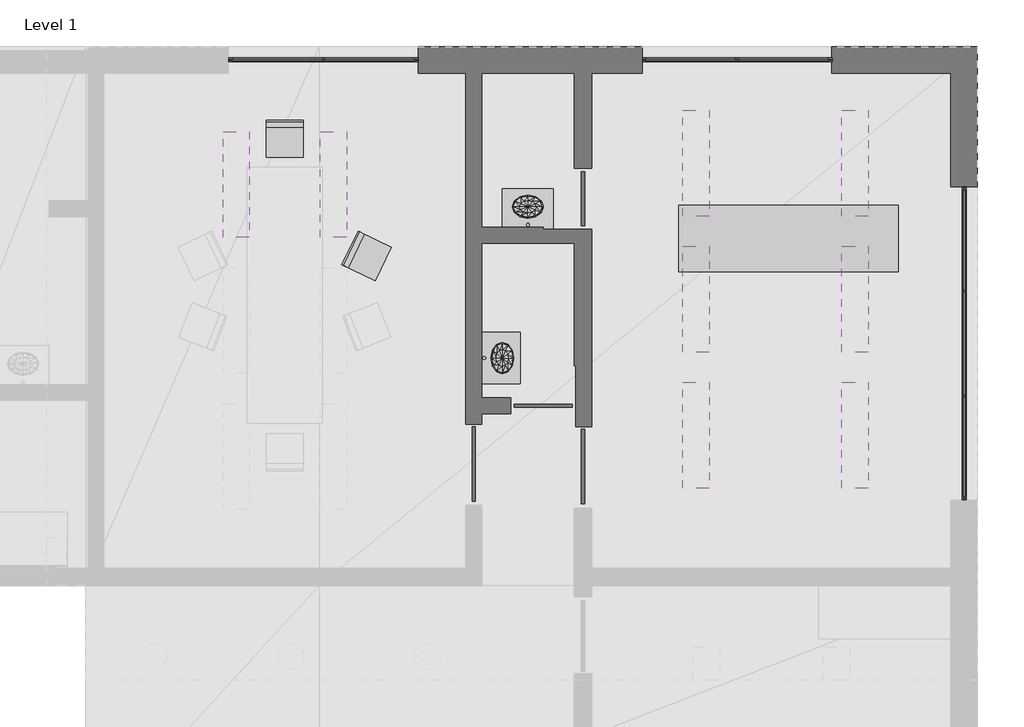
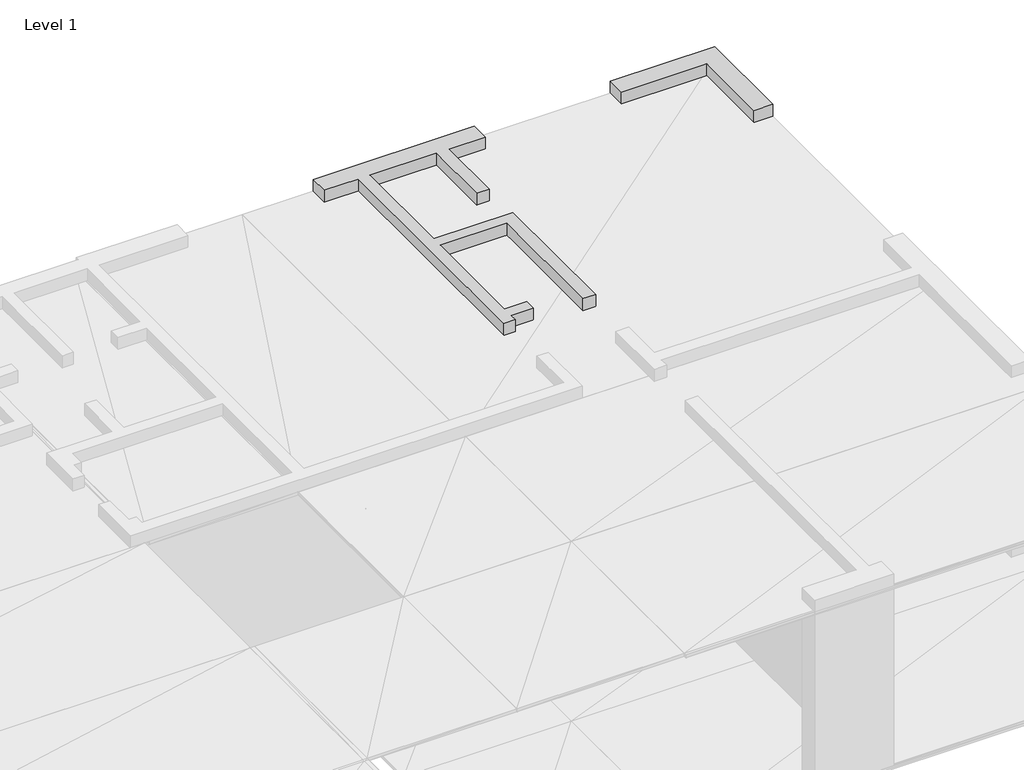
# One storey, part 14 of 14: 23 proxies.
"""IFC4 building model written with IfcOpenShell, lengths in millimetres."""

from ifc_helpers import new_model, si_unit, frame, origin, origin_with_axes, place, context, project, spatial, polyline, outline, extrude, faceted_brep, element, save

model = new_model("IFC4")

# Units and contexts
model_context = context("Model", 3, world=origin())
ifc_project = project(units=[si_unit("LENGTHUNIT", "METRE", prefix="MILLI")], contexts=[model_context])

# Site, building, storey
site = spatial("IfcSite", under=ifc_project)
building = spatial("IfcBuilding", under=site)
storey = spatial("IfcBuildingStorey", under=building, Name="Level 1", Elevation=0.0)

# Proxies
placement = place(None, origin())
element("IfcBuildingElementProxy", 1, Name="Generic Models", at=placement, inside=storey, context=model_context, shape_type="SweptSolid", body=[
    extrude(outline(polyline([(25636.016846, 19700.000763), (23151.018143, 19700.000763), (23151.018143, 20450.000763), (25636.016846, 20450.000763), (25636.016846, 19700.000763)])), frame((0.0, 0.0, 709.999979), z_axis=(0.0, 0.0, 1.0), x_axis=(1.0, 0.0, 0.0)), (0.0, 0.0, 1.0), 40.000021),
])
element("IfcBuildingElementProxy", 2, Name="Generic Models", at=placement, inside=storey, context=model_context, shape_type="SweptSolid", body=[
    extrude(outline(polyline([(26536.018372, 22250.0), (26536.018372, 20659.999847), (26236.017227, 20659.999847), (26236.017227, 21950.000763), (24886.016846, 21950.000763), (24886.016846, 22250.0), (26536.018372, 22250.0)])), origin_with_axes(), (0.0, 0.0, 1.0), 3200.000048),
])
element("IfcBuildingElementProxy", 3, Name="Generic Models", at=placement, inside=storey, context=model_context, shape_type="Brep", body=[
    faceted_brep([(21986.017227, 17940.000534, 2099.999905), (21986.017227, 18630.001068, 2099.999905), (21986.017227, 18630.001068, 0.0), (21986.017227, 17940.000534, 0.0), (21246.017456, 18090.000153, 2099.999905), (21246.017456, 18090.000153, 0.0), (21246.017456, 18270.000458, 0.0), (21246.017456, 18270.000458, 2099.999905), (21966.016769, 18630.001068, 2099.999905), (21966.016769, 18630.001068, 0.0), (21266.017914, 18090.000153, 2099.999905), (21266.017914, 18270.000458, 2099.999905), (21966.016769, 17940.000534, 2099.999905), (22166.017532, 20180.000305, 0.0), (21616.018295, 20180.000305, 0.0), (21616.018295, 20180.000305, 2099.999905), (22166.017532, 20180.000305, 2099.999905), (21616.018295, 20200.000763, 0.0), (21616.018295, 20200.000763, 2099.999905), (21966.016769, 20870.000839, 2099.999905), (21966.016769, 20870.000839, 0.0), (22166.017532, 20870.000839, 0.0), (22166.017532, 20870.000839, 2099.999905), (22166.017532, 20200.000763, 2099.999905), (22166.017532, 20850.000381, 2099.999905), (21966.016769, 20850.000381, 2099.999905), (20916.017532, 20200.000763, 0.0), (20916.017532, 21950.000763, 0.0), (20916.017532, 21950.000763, 3200.000048), (20916.017532, 20200.000763, 3200.000048), (22166.017532, 20200.000763, 3200.000048), (22166.017532, 17940.000534, 0.0), (22166.017532, 17940.000534, 3200.000048), (21966.016769, 17940.000534, 3200.000048), (21966.016769, 20020.000458, 3200.000048), (21966.016769, 20020.000458, 0.0), (20916.017532, 20020.000458, 0.0), (20916.017532, 20020.000458, 3200.000048), (20916.017532, 18270.000458, 0.0), (20916.017532, 18270.000458, 3200.000048), (21266.017914, 18270.000458, 3200.000048), (21266.017914, 18090.000153, 3200.000048), (20916.017532, 18090.000153, 3200.000048), (20916.017532, 18090.000153, 0.0), (20916.017532, 17970.001221, 0.0), (20916.017532, 17970.001221, 3200.000048), (20736.017227, 17970.001221, 0.0), (20736.017227, 17970.001221, 3200.000048), (20736.017227, 21950.000763, 0.0), (20736.017227, 21950.000763, 3200.000048), (20196.018219, 21950.000763, 0.0), (20196.018219, 21950.000763, 3200.000048), (20196.018219, 22250.0, 0.0), (20196.018219, 22250.0, 3200.000048), (22736.017227, 22250.0, 0.0), (22736.017227, 22250.0, 3200.000048), (22736.017227, 21950.000763, 0.0), (22736.017227, 21950.000763, 3200.000048), (22166.017532, 21950.000763, 0.0), (22166.017532, 21950.000763, 3200.000048), (22166.017532, 20850.000381, 3200.000048), (21966.016769, 20850.000381, 3200.000048), (21966.016769, 21950.000763, 3200.000048), (21966.016769, 21950.000763, 0.0)], [[[0, 1, 2, 3]], [[4, 5, 6, 7]], [[8, 9, 2, 1]], [[10, 4, 7, 11]], [[8, 1, 0, 12]], [[13, 14, 15, 16]], [[15, 14, 17, 18]], [[19, 20, 21, 22]], [[16, 15, 18, 23]], [[24, 25, 19, 22]], [[26, 27, 28, 29]], [[18, 17, 26, 29, 30, 23]], [[31, 13, 16, 23, 30, 32]], [[3, 31, 32, 33, 12, 0]], [[12, 33, 34, 35, 9, 8]], [[36, 35, 34, 37]], [[38, 36, 37, 39]], [[7, 6, 38, 39, 40, 11]], [[11, 40, 41, 10]], [[4, 10, 41, 42, 43, 5]], [[44, 43, 42, 45]], [[46, 44, 45, 47]], [[48, 46, 47, 49]], [[50, 48, 49, 51]], [[52, 50, 51, 53]], [[54, 52, 53, 55]], [[56, 54, 55, 57]], [[58, 56, 57, 59]], [[22, 21, 58, 59, 60, 24]], [[24, 60, 61, 25]], [[19, 25, 61, 62, 63, 20]], [[27, 63, 62, 28]], [[62, 61, 60, 59, 57, 55, 53, 51, 49, 47, 45, 42, 41, 40, 39, 37, 34, 33, 32, 30, 29, 28]], [[38, 6, 5, 43, 44, 46, 48, 50, 52, 54, 56, 58, 21, 20, 63, 27, 26, 17, 14, 13, 31, 3, 2, 9, 35, 36]]]),
])
element("IfcBuildingElementProxy", 4, Name="Generic Models", at=placement, inside=storey, context=model_context, shape_type="SweptSolid", body=[
    extrude(outline(polyline([(22083.517075, 17066.999435), (22048.517227, 17066.999435), (22048.517227, 17913.000107), (22083.517075, 17913.000107), (22083.517075, 17066.999435)])), origin_with_axes(), (0.0, 0.0, 1.0), 2099.999905),
])
element("IfcBuildingElementProxy", 5, Name="Generic Models", at=placement, inside=storey, context=model_context, shape_type="SweptSolid", body=[
    extrude(outline(polyline([(20843.517303, 17097.000122), (20808.517456, 17097.000122), (20808.517456, 17943.000793), (20843.517303, 17943.000793), (20843.517303, 17097.000122)])), origin_with_axes(), (0.0, 0.0, 1.0), 2099.999905),
])
element("IfcBuildingElementProxy", 6, Name="Generic Models", at=placement, inside=storey, context=model_context, shape_type="SweptSolid", body=[
    extrude(outline(polyline([(22083.517075, 20219.499588), (22048.517227, 20219.499588), (22048.517227, 20830.499649), (22083.517075, 20830.499649), (22083.517075, 20219.499588)])), origin_with_axes(), (0.0, 0.0, 1.0), 2099.999905),
])
element("IfcBuildingElementProxy", 7, Name="Generic Models", at=placement, inside=storey, context=model_context, shape_type="SweptSolid", body=[
    extrude(outline(polyline([(21945.016861, 18197.500229), (21945.016861, 18162.500381), (21287.017822, 18162.500381), (21287.017822, 18197.500229), (21945.016861, 18197.500229)])), origin_with_axes(), (0.0, 0.0, 1.0), 2099.999905),
])
element("IfcBuildingElementProxy", 8, Name="Generic Models", at=placement, inside=storey, context=model_context, shape_type="SweptSolid", body=[
    extrude(outline(polyline([(26408.500671, 19464.166641), (26363.500595, 19464.166641), (26363.500595, 19489.16626), (26408.500671, 19489.16626), (26408.500671, 19464.166641)])), frame((0.0, 0.0, 850.000024), z_axis=(0.0, 0.0, 1.0), x_axis=(1.0, 0.0, 0.0)), (0.0, 0.0, 1.0), 1499.999881),
    extrude(outline(polyline([(26408.500671, 18280.834198), (26363.500595, 18280.834198), (26363.500595, 18305.833817), (26408.500671, 18305.833817), (26408.500671, 18280.834198)])), frame((0.0, 0.0, 850.000024), z_axis=(0.0, 0.0, 1.0), x_axis=(1.0, 0.0, 0.0)), (0.0, 0.0, 1.0), 1499.999881),
    extrude(outline(polyline([(26408.500671, 20617.500305), (26363.500595, 20617.500305), (26363.500595, 20662.500381), (26408.500671, 20662.500381), (26408.500671, 20617.500305)])), frame((0.0, 0.0, 850.000024), z_axis=(0.0, 0.0, 1.0), x_axis=(1.0, 0.0, 0.0)), (0.0, 0.0, 1.0), 1499.999881),
    extrude(outline(polyline([(26408.500671, 17107.500076), (26363.500595, 17107.500076), (26363.500595, 17152.500153), (26408.500671, 17152.500153), (26408.500671, 17107.500076)])), frame((0.0, 0.0, 850.000024), z_axis=(0.0, 0.0, 1.0), x_axis=(1.0, 0.0, 0.0)), (0.0, 0.0, 1.0), 1499.999881),
    extrude(outline(polyline([(26408.500671, 17110.00061), (26363.500595, 17110.00061), (26363.500595, 20659.999847), (26408.500671, 20659.999847), (26408.500671, 17110.00061)])), frame((0.0, 0.0, 2327.500105), z_axis=(0.0, 0.0, 1.0), x_axis=(1.0, 0.0, 0.0)), (0.0, 0.0, 1.0), 44.999838),
    extrude(outline(polyline([(26408.500671, 17110.00061), (26363.500595, 17110.00061), (26363.500595, 20659.999847), (26408.500671, 20659.999847), (26408.500671, 17110.00061)])), frame((0.0, 0.0, 827.499986), z_axis=(0.0, 0.0, 1.0), x_axis=(1.0, 0.0, 0.0)), (0.0, 0.0, 1.0), 45.000016),
    extrude(outline(polyline([(26395.000458, 17110.00061), (26377.000809, 17110.00061), (26377.000809, 20659.999847), (26395.000458, 20659.999847), (26395.000458, 17110.00061)])), frame((0.0, 0.0, 850.000024), z_axis=(0.0, 0.0, 1.0), x_axis=(1.0, 0.0, 0.0)), (0.0, 0.0, 1.0), 1499.999881),
])
element("IfcBuildingElementProxy", 9, Name="Generic Models", at=placement, inside=storey, context=model_context, shape_type="SweptSolid", body=[
    extrude(outline(polyline([(19108.499527, 22077.49939), (19108.499527, 22122.499466), (19133.499146, 22122.499466), (19133.499146, 22077.49939), (19108.499527, 22077.49939)])), frame((0.0, 0.0, 850.000024), z_axis=(0.0, 0.0, 1.0), x_axis=(1.0, 0.0, 0.0)), (0.0, 0.0, 1.0), 1499.999881),
    extrude(outline(polyline([(20153.499603, 22077.49939), (20153.499603, 22122.499466), (20198.49968, 22122.499466), (20198.49968, 22077.49939), (20153.499603, 22077.49939)])), frame((0.0, 0.0, 850.000024), z_axis=(0.0, 0.0, 1.0), x_axis=(1.0, 0.0, 0.0)), (0.0, 0.0, 1.0), 1499.999881),
    extrude(outline(polyline([(18043.5009, 22077.49939), (18043.5009, 22122.499466), (18088.499069, 22122.499466), (18088.499069, 22077.49939), (18043.5009, 22077.49939)])), frame((0.0, 0.0, 850.000024), z_axis=(0.0, 0.0, 1.0), x_axis=(1.0, 0.0, 0.0)), (0.0, 0.0, 1.0), 1499.999881),
    extrude(outline(polyline([(18045.999527, 22077.49939), (18045.999527, 22122.499466), (20195.999146, 22122.499466), (20195.999146, 22077.49939), (18045.999527, 22077.49939)])), frame((0.0, 0.0, 2327.500105), z_axis=(0.0, 0.0, 1.0), x_axis=(1.0, 0.0, 0.0)), (0.0, 0.0, 1.0), 44.999838),
    extrude(outline(polyline([(18045.999527, 22077.49939), (18045.999527, 22122.499466), (20195.999146, 22122.499466), (20195.999146, 22077.49939), (18045.999527, 22077.49939)])), frame((0.0, 0.0, 827.499986), z_axis=(0.0, 0.0, 1.0), x_axis=(1.0, 0.0, 0.0)), (0.0, 0.0, 1.0), 45.000016),
    extrude(outline(polyline([(18045.999527, 22090.999603), (18045.999527, 22108.999252), (20195.999146, 22108.999252), (20195.999146, 22090.999603), (18045.999527, 22090.999603)])), frame((0.0, 0.0, 850.000024), z_axis=(0.0, 0.0, 1.0), x_axis=(1.0, 0.0, 0.0)), (0.0, 0.0, 1.0), 1499.999881),
])
element("IfcBuildingElementProxy", 10, Name="Generic Models", at=placement, inside=storey, context=model_context, shape_type="SweptSolid", body=[
    extrude(outline(polyline([(23798.500061, 22077.49939), (23798.500061, 22122.499466), (23823.49968, 22122.499466), (23823.49968, 22077.49939), (23798.500061, 22077.49939)])), frame((0.0, 0.0, 850.000024), z_axis=(0.0, 0.0, 1.0), x_axis=(1.0, 0.0, 0.0)), (0.0, 0.0, 1.0), 1499.999881),
    extrude(outline(polyline([(24843.500137, 22077.49939), (24843.500137, 22122.499466), (24888.500214, 22122.499466), (24888.500214, 22077.49939), (24843.500137, 22077.49939)])), frame((0.0, 0.0, 850.000024), z_axis=(0.0, 0.0, 1.0), x_axis=(1.0, 0.0, 0.0)), (0.0, 0.0, 1.0), 1499.999881),
    extrude(outline(polyline([(22733.499527, 22077.49939), (22733.499527, 22122.499466), (22778.499603, 22122.499466), (22778.499603, 22077.49939), (22733.499527, 22077.49939)])), frame((0.0, 0.0, 850.000024), z_axis=(0.0, 0.0, 1.0), x_axis=(1.0, 0.0, 0.0)), (0.0, 0.0, 1.0), 1499.999881),
    extrude(outline(polyline([(22736.000061, 22077.49939), (22736.000061, 22122.499466), (24885.99968, 22122.499466), (24885.99968, 22077.49939), (22736.000061, 22077.49939)])), frame((0.0, 0.0, 2327.500105), z_axis=(0.0, 0.0, 1.0), x_axis=(1.0, 0.0, 0.0)), (0.0, 0.0, 1.0), 44.999838),
    extrude(outline(polyline([(22736.000061, 22077.49939), (22736.000061, 22122.499466), (24885.99968, 22122.499466), (24885.99968, 22077.49939), (22736.000061, 22077.49939)])), frame((0.0, 0.0, 827.499986), z_axis=(0.0, 0.0, 1.0), x_axis=(1.0, 0.0, 0.0)), (0.0, 0.0, 1.0), 45.000016),
    extrude(outline(polyline([(22736.000061, 22090.999603), (22736.000061, 22108.999252), (24885.99968, 22108.999252), (24885.99968, 22090.999603), (22736.000061, 22090.999603)])), frame((0.0, 0.0, 850.000024), z_axis=(0.0, 0.0, 1.0), x_axis=(1.0, 0.0, 0.0)), (0.0, 0.0, 1.0), 1499.999881),
])
element("IfcBuildingElementProxy", 11, Name="Generic Models", at=placement, inside=storey, context=model_context, shape_type="SweptSolid", body=[
    extrude(outline(polyline([(18286.018372, 20086.000443), (17986.019135, 20086.000443), (17986.019135, 21286.001205), (18286.018372, 21286.001205), (18286.018372, 20086.000443)])), frame((0.0, 0.0, 2910.000086), z_axis=(0.0, 0.0, 1.0), x_axis=(1.0, 0.0, 0.0)), (0.0, 0.0, 1.0), 39.999962),
])
element("IfcBuildingElementProxy", 12, Name="Generic Models", at=placement, inside=storey, context=model_context, shape_type="SweptSolid", body=[
    extrude(outline(polyline([(19387.996674, 20086.000443), (19087.997437, 20086.000443), (19087.997437, 21286.001205), (19387.996674, 21286.001205), (19387.996674, 20086.000443)])), frame((0.0, 0.0, 2910.000086), z_axis=(0.0, 0.0, 1.0), x_axis=(1.0, 0.0, 0.0)), (0.0, 0.0, 1.0), 39.999962),
])
element("IfcBuildingElementProxy", 13, Name="Generic Models", at=placement, inside=storey, context=model_context, shape_type="SweptSolid", body=[
    extrude(outline(polyline([(23496.017456, 20328.72963), (23196.018219, 20328.72963), (23196.018219, 21528.730392), (23496.017456, 21528.730392), (23496.017456, 20328.72963)])), frame((0.0, 0.0, 2910.000086), z_axis=(0.0, 0.0, 1.0), x_axis=(1.0, 0.0, 0.0)), (0.0, 0.0, 1.0), 39.999962),
])
element("IfcBuildingElementProxy", 14, Name="Generic Models", at=placement, inside=storey, context=model_context, shape_type="SweptSolid", body=[
    extrude(outline(polyline([(25300.609589, 20328.72963), (25000.610352, 20328.72963), (25000.610352, 21528.730392), (25300.609589, 21528.730392), (25300.609589, 20328.72963)])), frame((0.0, 0.0, 2910.000086), z_axis=(0.0, 0.0, 1.0), x_axis=(1.0, 0.0, 0.0)), (0.0, 0.0, 1.0), 39.999962),
])
element("IfcBuildingElementProxy", 15, Name="Generic Models", at=placement, inside=storey, context=model_context, shape_type="SweptSolid", body=[
    extrude(outline(polyline([(23496.017456, 18787.729263), (23196.018219, 18787.729263), (23196.018219, 19987.730026), (23496.017456, 19987.730026), (23496.017456, 18787.729263)])), frame((0.0, 0.0, 2910.000086), z_axis=(0.0, 0.0, 1.0), x_axis=(1.0, 0.0, 0.0)), (0.0, 0.0, 1.0), 39.999962),
])
element("IfcBuildingElementProxy", 16, Name="Generic Models", at=placement, inside=storey, context=model_context, shape_type="SweptSolid", body=[
    extrude(outline(polyline([(25300.609589, 18787.729263), (25000.610352, 18787.729263), (25000.610352, 19987.730026), (25300.609589, 19987.730026), (25300.609589, 18787.729263)])), frame((0.0, 0.0, 2910.000086), z_axis=(0.0, 0.0, 1.0), x_axis=(1.0, 0.0, 0.0)), (0.0, 0.0, 1.0), 39.999962),
])
element("IfcBuildingElementProxy", 17, Name="Generic Models", at=placement, inside=storey, context=model_context, shape_type="SweptSolid", body=[
    extrude(outline(polyline([(23496.017456, 17246.728897), (23196.018219, 17246.728897), (23196.018219, 18446.72966), (23496.017456, 18446.72966), (23496.017456, 17246.728897)])), frame((0.0, 0.0, 2910.000086), z_axis=(0.0, 0.0, 1.0), x_axis=(1.0, 0.0, 0.0)), (0.0, 0.0, 1.0), 39.999962),
])
element("IfcBuildingElementProxy", 18, Name="Generic Models", at=placement, inside=storey, context=model_context, shape_type="SweptSolid", body=[
    extrude(outline(polyline([(25300.609589, 17246.728897), (25000.610352, 17246.728897), (25000.610352, 18446.72966), (25300.609589, 18446.72966), (25300.609589, 17246.728897)])), frame((0.0, 0.0, 2910.000086), z_axis=(0.0, 0.0, 1.0), x_axis=(1.0, 0.0, 0.0)), (0.0, 0.0, 1.0), 39.999962),
])
element("IfcBuildingElementProxy", 19, Name="Generic Models", at=placement, inside=storey, context=model_context, shape_type="SweptSolid", body=[
    extrude(outline(polyline([(19677.837372, 19673.095703), (19703.062057, 19660.943985), (19690.912247, 19635.719299), (19665.685654, 19647.86911), (19677.837372, 19673.095703)])), frame((0.0, 0.0, 50.000001), z_axis=(0.0, 0.0, 1.0), x_axis=(1.0, 0.0, 0.0)), (0.0, 0.0, 1.0), 389.999997),
    extrude(outline(polyline([(19389.539719, 19811.965942), (19414.766312, 19799.814224), (19402.614594, 19774.587631), (19377.388, 19786.739349), (19389.539719, 19811.965942)])), frame((0.0, 0.0, 50.000001), z_axis=(0.0, 0.0, 1.0), x_axis=(1.0, 0.0, 0.0)), (0.0, 0.0, 1.0), 389.999997),
    extrude(outline(polyline([(19825.386047, 19979.412079), (19850.610733, 19967.260361), (19838.460922, 19942.033768), (19813.234329, 19954.185486), (19825.386047, 19979.412079)])), frame((0.0, 0.0, 50.000001), z_axis=(0.0, 0.0, 1.0), x_axis=(1.0, 0.0, 0.0)), (0.0, 0.0, 1.0), 389.999997),
    extrude(outline(polyline([(19537.088394, 20118.280411), (19562.314987, 20106.1306), (19550.163269, 20080.904007), (19524.936676, 20093.055725), (19537.088394, 20118.280411)])), frame((0.0, 0.0, 50.000001), z_axis=(0.0, 0.0, 1.0), x_axis=(1.0, 0.0, 0.0)), (0.0, 0.0, 1.0), 389.999997),
    extrude(outline(polyline([(19533.956528, 20148.649216), (19588.012695, 20122.610092), (19405.74646, 19744.220734), (19351.690292, 19770.259857), (19533.956528, 20148.649216)])), frame((0.0, 0.0, 460.000008), z_axis=(0.0, 0.0, 1.0), x_axis=(1.0, 0.0, 0.0)), (0.0, 0.0, 1.0), 400.000006),
    extrude(outline(polyline([(19515.937805, 20157.327652), (19894.329071, 19975.061417), (19712.060928, 19596.672058), (19333.67157, 19778.938293), (19515.937805, 20157.327652)])), frame((0.0, 0.0, 417.499989), z_axis=(0.0, 0.0, 1.0), x_axis=(1.0, 0.0, 0.0)), (0.0, 0.0, 1.0), 55.000007),
])
element("IfcBuildingElementProxy", 20, Name="Generic Models", at=placement, inside=storey, context=model_context, shape_type="SweptSolid", body=[
    extrude(outline(polyline([(18529.998779, 21059.001923), (18529.998779, 21031.002045), (18501.998901, 21031.002045), (18501.998901, 21059.001923), (18529.998779, 21059.001923)])), frame((0.0, 0.0, 50.000001), z_axis=(0.0, 0.0, 1.0), x_axis=(1.0, 0.0, 0.0)), (0.0, 0.0, 1.0), 389.999997),
    extrude(outline(polyline([(18530.002594, 21379.001617), (18530.000687, 21351.00174), (18502.000809, 21351.00174), (18502.000809, 21379.001617), (18530.002594, 21379.001617)])), frame((0.0, 0.0, 50.000001), z_axis=(0.0, 0.0, 1.0), x_axis=(1.0, 0.0, 0.0)), (0.0, 0.0, 1.0), 389.999997),
    extrude(outline(polyline([(18869.998932, 21058.998108), (18869.998932, 21030.99823), (18841.999054, 21030.99823), (18841.999054, 21058.998108), (18869.998932, 21058.998108)])), frame((0.0, 0.0, 50.000001), z_axis=(0.0, 0.0, 1.0), x_axis=(1.0, 0.0, 0.0)), (0.0, 0.0, 1.0), 389.999997),
    extrude(outline(polyline([(18870.000839, 21378.997803), (18870.000839, 21350.997925), (18842.000961, 21350.997925), (18842.000961, 21378.997803), (18870.000839, 21378.997803)])), frame((0.0, 0.0, 50.000001), z_axis=(0.0, 0.0, 1.0), x_axis=(1.0, 0.0, 0.0)), (0.0, 0.0, 1.0), 389.999997),
    extrude(outline(polyline([(18896.001816, 21394.99855), (18896.001816, 21334.997177), (18476.00174, 21335.002899), (18476.00174, 21395.002365), (18896.001816, 21394.99855)])), frame((0.0, 0.0, 460.000008), z_axis=(0.0, 0.0, 1.0), x_axis=(1.0, 0.0, 0.0)), (0.0, 0.0, 1.0), 400.000006),
    extrude(outline(polyline([(18896.001816, 21414.997101), (18895.998001, 20994.997025), (18475.997925, 20995.002747), (18476.00174, 21415.002823), (18896.001816, 21414.997101)])), frame((0.0, 0.0, 417.499989), z_axis=(0.0, 0.0, 1.0), x_axis=(1.0, 0.0, 0.0)), (0.0, 0.0, 1.0), 55.000007),
])
element("IfcBuildingElementProxy", 21, Name="Generic Models", at=placement, inside=storey, context=model_context, shape_type="SweptSolid", body=[
    extrude(outline(polyline([(25583.517075, 19775.001526), (25538.516998, 19775.001526), (25538.516998, 20375.0), (25583.517075, 20375.0), (25583.517075, 19775.001526)])), frame((0.0, 0.0, 639.999986), z_axis=(0.0, 0.0, 1.0), x_axis=(1.0, 0.0, 0.0)), (0.0, 0.0, 1.0), 69.999993),
    extrude(outline(polyline([(23248.51799, 19775.001526), (23203.517914, 19775.001526), (23203.517914, 20375.0), (23248.51799, 20375.0), (23248.51799, 19775.001526)])), frame((0.0, 0.0, 639.999986), z_axis=(0.0, 0.0, 1.0), x_axis=(1.0, 0.0, 0.0)), (0.0, 0.0, 1.0), 69.999993),
    extrude(outline(polyline([(23226.018906, 20352.500916), (23226.018906, 20397.500992), (25561.016083, 20397.500992), (25561.016083, 20352.500916), (23226.018906, 20352.500916)])), frame((0.0, 0.0, 639.999986), z_axis=(0.0, 0.0, 1.0), x_axis=(1.0, 0.0, 0.0)), (0.0, 0.0, 1.0), 69.999993),
    extrude(outline(polyline([(23226.018906, 19752.500534), (23226.018906, 19797.50061), (25561.016083, 19797.50061), (25561.016083, 19752.500534), (23226.018906, 19752.500534)])), frame((0.0, 0.0, 639.999986), z_axis=(0.0, 0.0, 1.0), x_axis=(1.0, 0.0, 0.0)), (0.0, 0.0, 1.0), 69.999993),
    extrude(outline(polyline([(25536.016464, 20350.000381), (25536.016464, 20400.001526), (25586.017609, 20400.001526), (25586.017609, 20350.000381), (25536.016464, 20350.000381)])), frame((0.0, 0.0, 50.000001), z_axis=(0.0, 0.0, 1.0), x_axis=(1.0, 0.0, 0.0)), (0.0, 0.0, 1.0), 659.999978),
    extrude(outline(polyline([(25536.016464, 19750.0), (25536.016464, 19800.001144), (25586.017609, 19800.001144), (25586.017609, 19750.0), (25536.016464, 19750.0)])), frame((0.0, 0.0, 50.000001), z_axis=(0.0, 0.0, 1.0), x_axis=(1.0, 0.0, 0.0)), (0.0, 0.0, 1.0), 659.999978),
    extrude(outline(polyline([(23201.01738, 20350.000381), (23201.01738, 20400.001526), (23251.018524, 20400.001526), (23251.018524, 20350.000381), (23201.01738, 20350.000381)])), frame((0.0, 0.0, 50.000001), z_axis=(0.0, 0.0, 1.0), x_axis=(1.0, 0.0, 0.0)), (0.0, 0.0, 1.0), 659.999978),
    extrude(outline(polyline([(23201.01738, 19750.0), (23201.01738, 19800.001144), (23251.018524, 19800.001144), (23251.018524, 19750.0), (23201.01738, 19750.0)])), frame((0.0, 0.0, 50.000001), z_axis=(0.0, 0.0, 1.0), x_axis=(1.0, 0.0, 0.0)), (0.0, 0.0, 1.0), 659.999978),
])
element("IfcBuildingElementProxy", 22, Name="Generic Models", at=placement, inside=storey, context=model_context, shape_type="Brep", body=[
    faceted_brep([(21523.271561, 20399.999619, 868.971169), (21535.999298, 20434.999466, 868.971169), (21440.999985, 20434.999466, 875.0), (21583.499908, 20374.378204, 852.500021), (21523.271561, 20329.999924, 852.500021), (21488.500595, 20374.378204, 868.971169), (21605.545044, 20434.999466, 852.500021), (21523.271561, 20469.999313, 868.971169), (21440.999985, 20364.999771, 868.971169), (21393.499374, 20374.378204, 868.971169), (21358.728409, 20399.999619, 868.971169), (21346.000671, 20434.999466, 868.971169), (21358.728409, 20469.999313, 868.971169), (21393.499374, 20495.622635, 868.971169), (21440.999985, 20504.999161, 868.971169), (21488.500595, 20495.622635, 868.971169), (21605.545044, 20364.999771, 829.999983), (21535.999298, 20313.756943, 829.999983), (21440.999985, 20313.756943, 852.500021), (21440.999985, 20295.000076, 829.999983), (21631.000519, 20434.999466, 829.999983), (21583.499908, 20495.622635, 852.500021), (21358.728409, 20329.999924, 852.500021), (21298.500061, 20374.378204, 852.500021), (21276.454926, 20434.999466, 852.500021), (21298.500061, 20495.622635, 852.500021), (21358.728409, 20540.000916, 852.500021), (21440.999985, 20556.243896, 852.500021), (21523.271561, 20540.000916, 852.500021), (21583.499908, 20374.378204, 807.500005), (21523.271561, 20329.999924, 807.500005), (21440.999985, 20313.756943, 807.500005), (21346.000671, 20313.756943, 829.999983), (21358.728409, 20329.999924, 807.500005), (21605.545044, 20434.999466, 807.500005), (21605.545044, 20504.999161, 829.999983), (21276.454926, 20364.999771, 829.999983), (21250.999451, 20434.999466, 829.999983), (21276.454926, 20504.999161, 829.999983), (21346.000671, 20556.243896, 829.999983), (21440.999985, 20575.000763, 829.999983), (21535.999298, 20556.243896, 829.999983), (21523.271561, 20399.999619, 791.028857), (21488.500595, 20374.378204, 791.028857), (21440.999985, 20364.999771, 791.028857), (21393.499374, 20374.378204, 791.028857), (21298.500061, 20374.378204, 807.500005), (21358.728409, 20399.999619, 791.028857), (21535.999298, 20434.999466, 791.028857), (21583.499908, 20495.622635, 807.500005), (21276.454926, 20434.999466, 807.500005), (21298.500061, 20495.622635, 807.500005), (21358.728409, 20540.000916, 807.500005), (21440.999985, 20556.243896, 807.500005), (21523.271561, 20540.000916, 807.500005), (21440.999985, 20434.999466, 785.000026), (21346.000671, 20434.999466, 791.028857), (21523.271561, 20469.999313, 791.028857), (21358.728409, 20469.999313, 791.028857), (21393.499374, 20495.622635, 791.028857), (21440.999985, 20504.999161, 791.028857), (21488.500595, 20495.622635, 791.028857)], [[[0, 1, 2]], [[3, 1, 0]], [[4, 3, 0]], [[4, 0, 5]], [[5, 0, 2]], [[3, 6, 1]], [[6, 7, 1]], [[1, 7, 2]], [[8, 5, 2]], [[9, 8, 2]], [[10, 9, 2]], [[11, 10, 2]], [[12, 11, 2]], [[13, 12, 2]], [[14, 13, 2]], [[15, 14, 2]], [[7, 15, 2]], [[16, 6, 3]], [[17, 16, 3]], [[17, 3, 4]], [[18, 4, 5]], [[19, 17, 4]], [[19, 4, 18]], [[18, 5, 8]], [[16, 20, 6]], [[20, 21, 6]], [[6, 21, 7]], [[21, 15, 7]], [[22, 18, 8]], [[22, 8, 9]], [[23, 22, 9]], [[23, 9, 10]], [[24, 23, 10]], [[24, 10, 11]], [[25, 24, 11]], [[25, 11, 12]], [[26, 25, 12]], [[26, 12, 13]], [[27, 26, 13]], [[27, 13, 14]], [[28, 27, 14]], [[28, 14, 15]], [[21, 28, 15]], [[29, 20, 16]], [[30, 29, 16]], [[30, 16, 17]], [[31, 30, 17]], [[31, 17, 19]], [[32, 19, 18]], [[32, 18, 22]], [[33, 31, 19]], [[33, 19, 32]], [[29, 34, 20]], [[34, 35, 20]], [[20, 35, 21]], [[35, 28, 21]], [[36, 32, 22]], [[36, 22, 23]], [[37, 36, 23]], [[37, 23, 24]], [[38, 37, 24]], [[38, 24, 25]], [[39, 38, 25]], [[39, 25, 26]], [[40, 39, 26]], [[40, 26, 27]], [[41, 40, 27]], [[41, 27, 28]], [[35, 41, 28]], [[42, 34, 29]], [[43, 42, 29]], [[43, 29, 30]], [[44, 43, 30]], [[44, 30, 31]], [[45, 44, 31]], [[45, 31, 33]], [[46, 33, 32]], [[46, 32, 36]], [[47, 45, 33]], [[47, 33, 46]], [[42, 48, 34]], [[48, 49, 34]], [[34, 49, 35]], [[49, 41, 35]], [[50, 46, 36]], [[50, 36, 37]], [[51, 50, 37]], [[51, 37, 38]], [[52, 51, 38]], [[52, 38, 39]], [[53, 52, 39]], [[53, 39, 40]], [[54, 53, 40]], [[54, 40, 41]], [[49, 54, 41]], [[55, 48, 42]], [[55, 42, 43]], [[55, 43, 44]], [[55, 44, 45]], [[55, 45, 47]], [[56, 47, 46]], [[56, 46, 50]], [[55, 47, 56]], [[48, 57, 49]], [[55, 57, 48]], [[57, 54, 49]], [[58, 56, 50]], [[58, 50, 51]], [[59, 58, 51]], [[59, 51, 52]], [[60, 59, 52]], [[60, 52, 53]], [[61, 60, 53]], [[61, 53, 54]], [[57, 61, 54]], [[55, 56, 58]], [[55, 58, 59]], [[55, 59, 60]], [[55, 60, 61]], [[55, 61, 57]]]),
    faceted_brep([(21456.588745, 20239.00032, 1000.0), (21450.000763, 20245.588303, 1000.0), (21440.999985, 20247.999191, 1000.0), (21431.999207, 20245.588303, 1000.0), (21425.411224, 20239.00032, 1000.0), (21423.000336, 20229.999542, 1000.0), (21425.411224, 20221.000671, 1000.0), (21431.999207, 20214.410782, 1000.0), (21440.999985, 20211.999893, 1000.0), (21450.000763, 20214.410782, 1000.0), (21456.588745, 20221.000671, 1000.0), (21458.999634, 20229.999542, 1000.0), (21450.000763, 20245.588303, 819.999993), (21440.999985, 20247.999191, 819.999993), (21423.000336, 20229.999542, 819.999993), (21425.411224, 20221.000671, 819.999993), (21450.000763, 20214.410782, 819.999993), (21456.588745, 20221.000671, 819.999993), (21431.999207, 20245.588303, 819.999993), (21425.411224, 20239.00032, 819.999993), (21431.999207, 20214.410782, 819.999993), (21440.999985, 20211.999893, 819.999993), (21458.999634, 20229.999542, 819.999993), (21456.588745, 20239.00032, 819.999993)], [[[0, 1, 2, 3, 4, 5, 6, 7, 8, 9, 10, 11]], [[12, 13, 2, 1]], [[14, 15, 6, 5]], [[16, 17, 10, 9]], [[18, 19, 4, 3]], [[20, 21, 8, 7]], [[22, 23, 0, 11]], [[13, 18, 3, 2]], [[23, 12, 1, 0]], [[19, 14, 5, 4]], [[15, 20, 7, 6]], [[21, 16, 9, 8]], [[16, 21, 20, 15, 14, 19, 18, 13, 12, 23, 22, 17]], [[17, 22, 11, 10]]]),
    faceted_brep([(21150.999069, 20639.99939, 759.99999), (21150.999069, 20159.999847, 759.99999), (21150.999069, 20159.999847, 839.999974), (21150.999069, 20639.99939, 839.999974), (21731.0009, 20639.99939, 759.99999), (21731.0009, 20639.99939, 839.999974), (21731.0009, 20159.999847, 759.99999), (21731.0009, 20159.999847, 839.999974)], [[[0, 1, 2, 3]], [[4, 0, 3, 5]], [[1, 0, 4, 6]], [[2, 7, 5, 3]], [[1, 6, 7, 2]], [[6, 4, 5, 7]]]),
    faceted_brep([(21190.999985, 20600.000381, 39.999999), (21190.999985, 20200.000763, 39.999999), (21190.999985, 20200.000763, 759.99999), (21190.999985, 20600.000381, 759.99999), (21690.999985, 20600.000381, 39.999999), (21690.999985, 20600.000381, 759.99999), (21690.999985, 20200.000763, 39.999999), (21690.999985, 20200.000763, 759.99999)], [[[0, 1, 2, 3]], [[4, 0, 3, 5]], [[1, 0, 4, 6]], [[2, 7, 5, 3]], [[1, 6, 7, 2]], [[6, 4, 5, 7]]]),
])
element("IfcBuildingElementProxy", 23, Name="Generic Models", at=placement, inside=storey, context=model_context, shape_type="Brep", body=[
    faceted_brep([(21116.018295, 18637.723923, 868.971169), (21151.018143, 18624.996185, 868.971169), (21151.018143, 18719.997406, 875.0), (21090.394974, 18577.495575, 852.500021), (21046.016693, 18637.723923, 852.500021), (21090.394974, 18672.496796, 868.971169), (21151.018143, 18555.452347, 852.500021), (21186.01799, 18637.723923, 868.971169), (21081.018448, 18719.997406, 868.971169), (21090.394974, 18767.496109, 868.971169), (21116.018295, 18802.268982, 868.971169), (21151.018143, 18814.996719, 868.971169), (21186.01799, 18802.268982, 868.971169), (21211.639404, 18767.496109, 868.971169), (21221.017838, 18719.997406, 868.971169), (21211.639404, 18672.496796, 868.971169), (21081.018448, 18555.452347, 829.999983), (21029.773712, 18624.996185, 829.999983), (21029.773712, 18719.997406, 852.500021), (21011.016846, 18719.997406, 829.999983), (21151.018143, 18529.996872, 829.999983), (21211.639404, 18577.495575, 852.500021), (21046.016693, 18802.268982, 852.500021), (21090.394974, 18862.49733, 852.500021), (21151.018143, 18884.540558, 852.500021), (21211.639404, 18862.49733, 852.500021), (21256.017685, 18802.268982, 852.500021), (21272.260666, 18719.997406, 852.500021), (21256.017685, 18637.723923, 852.500021), (21090.394974, 18577.495575, 807.500005), (21046.016693, 18637.723923, 807.500005), (21029.773712, 18719.997406, 807.500005), (21029.773712, 18814.996719, 829.999983), (21046.016693, 18802.268982, 807.500005), (21151.018143, 18555.452347, 807.500005), (21221.017838, 18555.452347, 829.999983), (21081.018448, 18884.540558, 829.999983), (21151.018143, 18909.996033, 829.999983), (21221.017838, 18884.540558, 829.999983), (21272.260666, 18814.996719, 829.999983), (21291.017532, 18719.997406, 829.999983), (21272.260666, 18624.996185, 829.999983), (21116.018295, 18637.723923, 791.028857), (21090.394974, 18672.496796, 791.028857), (21081.018448, 18719.997406, 791.028857), (21090.394974, 18767.496109, 791.028857), (21090.394974, 18862.49733, 807.500005), (21116.018295, 18802.268982, 791.028857), (21151.018143, 18624.996185, 791.028857), (21211.639404, 18577.495575, 807.500005), (21151.018143, 18884.540558, 807.500005), (21211.639404, 18862.49733, 807.500005), (21256.017685, 18802.268982, 807.500005), (21272.260666, 18719.997406, 807.500005), (21256.017685, 18637.723923, 807.500005), (21151.018143, 18719.997406, 785.000026), (21151.018143, 18814.996719, 791.028857), (21186.01799, 18637.723923, 791.028857), (21186.01799, 18802.268982, 791.028857), (21211.639404, 18767.496109, 791.028857), (21221.017838, 18719.997406, 791.028857), (21211.639404, 18672.496796, 791.028857)], [[[0, 1, 2]], [[3, 1, 0]], [[4, 3, 0]], [[4, 0, 5]], [[5, 0, 2]], [[3, 6, 1]], [[6, 7, 1]], [[1, 7, 2]], [[8, 5, 2]], [[9, 8, 2]], [[10, 9, 2]], [[11, 10, 2]], [[12, 11, 2]], [[13, 12, 2]], [[14, 13, 2]], [[15, 14, 2]], [[7, 15, 2]], [[16, 6, 3]], [[17, 16, 3]], [[17, 3, 4]], [[18, 4, 5]], [[19, 17, 4]], [[19, 4, 18]], [[18, 5, 8]], [[16, 20, 6]], [[20, 21, 6]], [[6, 21, 7]], [[21, 15, 7]], [[22, 18, 8]], [[22, 8, 9]], [[23, 22, 9]], [[23, 9, 10]], [[24, 23, 10]], [[24, 10, 11]], [[25, 24, 11]], [[25, 11, 12]], [[26, 25, 12]], [[26, 12, 13]], [[27, 26, 13]], [[27, 13, 14]], [[28, 27, 14]], [[28, 14, 15]], [[21, 28, 15]], [[29, 20, 16]], [[30, 29, 16]], [[30, 16, 17]], [[31, 30, 17]], [[31, 17, 19]], [[32, 19, 18]], [[32, 18, 22]], [[33, 31, 19]], [[33, 19, 32]], [[29, 34, 20]], [[34, 35, 20]], [[20, 35, 21]], [[35, 28, 21]], [[36, 32, 22]], [[36, 22, 23]], [[37, 36, 23]], [[37, 23, 24]], [[38, 37, 24]], [[38, 24, 25]], [[39, 38, 25]], [[39, 25, 26]], [[40, 39, 26]], [[40, 26, 27]], [[41, 40, 27]], [[41, 27, 28]], [[35, 41, 28]], [[42, 34, 29]], [[43, 42, 29]], [[43, 29, 30]], [[44, 43, 30]], [[44, 30, 31]], [[45, 44, 31]], [[45, 31, 33]], [[46, 33, 32]], [[46, 32, 36]], [[47, 45, 33]], [[47, 33, 46]], [[42, 48, 34]], [[48, 49, 34]], [[34, 49, 35]], [[49, 41, 35]], [[50, 46, 36]], [[50, 36, 37]], [[51, 50, 37]], [[51, 37, 38]], [[52, 51, 38]], [[52, 38, 39]], [[53, 52, 39]], [[53, 39, 40]], [[54, 53, 40]], [[54, 40, 41]], [[49, 54, 41]], [[55, 48, 42]], [[55, 42, 43]], [[55, 43, 44]], [[55, 44, 45]], [[55, 45, 47]], [[56, 47, 46]], [[56, 46, 50]], [[55, 47, 56]], [[48, 57, 49]], [[55, 57, 48]], [[57, 54, 49]], [[58, 56, 50]], [[58, 50, 51]], [[59, 58, 51]], [[59, 51, 52]], [[60, 59, 52]], [[60, 52, 53]], [[61, 60, 53]], [[61, 53, 54]], [[57, 61, 54]], [[55, 56, 58]], [[55, 58, 59]], [[55, 59, 60]], [[55, 60, 61]], [[55, 61, 57]]]),
    faceted_brep([(20961.605072, 18728.996277, 1000.0), (20955.01709, 18735.584259, 1000.0), (20946.018219, 18737.997055, 1000.0), (20937.017441, 18735.584259, 1000.0), (20930.429459, 18728.996277, 1000.0), (20928.016663, 18719.997406, 1000.0), (20930.429459, 18710.996628, 1000.0), (20937.017441, 18704.408646, 1000.0), (20946.018219, 18701.99585, 1000.0), (20955.01709, 18704.408646, 1000.0), (20961.605072, 18710.996628, 1000.0), (20964.017868, 18719.997406, 1000.0), (20955.01709, 18735.584259, 819.999993), (20946.018219, 18737.997055, 819.999993), (20928.016663, 18719.997406, 819.999993), (20930.429459, 18710.996628, 819.999993), (20955.01709, 18704.408646, 819.999993), (20961.605072, 18710.996628, 819.999993), (20937.017441, 18735.584259, 819.999993), (20930.429459, 18728.996277, 819.999993), (20937.017441, 18704.408646, 819.999993), (20946.018219, 18701.99585, 819.999993), (20964.017868, 18719.997406, 819.999993), (20961.605072, 18728.996277, 819.999993)], [[[0, 1, 2, 3, 4, 5, 6, 7, 8, 9, 10, 11]], [[12, 13, 2, 1]], [[14, 15, 6, 5]], [[16, 17, 10, 9]], [[18, 19, 4, 3]], [[20, 21, 8, 7]], [[22, 23, 0, 11]], [[13, 18, 3, 2]], [[23, 12, 1, 0]], [[19, 14, 5, 4]], [[15, 20, 7, 6]], [[21, 16, 9, 8]], [[16, 21, 20, 15, 14, 19, 18, 13, 12, 23, 22, 17]], [[17, 22, 11, 10]]]),
    faceted_brep([(21356.018066, 19009.996414, 759.99999), (20876.016617, 19009.996414, 759.99999), (20876.016617, 19009.996414, 839.999974), (21356.018066, 19009.996414, 839.999974), (21356.018066, 18429.99649, 759.99999), (21356.018066, 18429.99649, 839.999974), (20876.016617, 18429.99649, 759.99999), (20876.016617, 18429.99649, 839.999974)], [[[0, 1, 2, 3]], [[4, 0, 3, 5]], [[1, 0, 4, 6]], [[2, 7, 5, 3]], [[1, 6, 7, 2]], [[6, 4, 5, 7]]]),
    faceted_brep([(21316.017151, 18969.997406, 39.999999), (20916.017532, 18969.997406, 39.999999), (20916.017532, 18969.997406, 759.99999), (21316.017151, 18969.997406, 759.99999), (21316.017151, 18469.997406, 39.999999), (21316.017151, 18469.997406, 759.99999), (20916.017532, 18469.997406, 39.999999), (20916.017532, 18469.997406, 759.99999)], [[[0, 1, 2, 3]], [[4, 0, 3, 5]], [[1, 0, 4, 6]], [[2, 7, 5, 3]], [[1, 6, 7, 2]], [[6, 4, 5, 7]]]),
])

save(model, "model.ifc")
